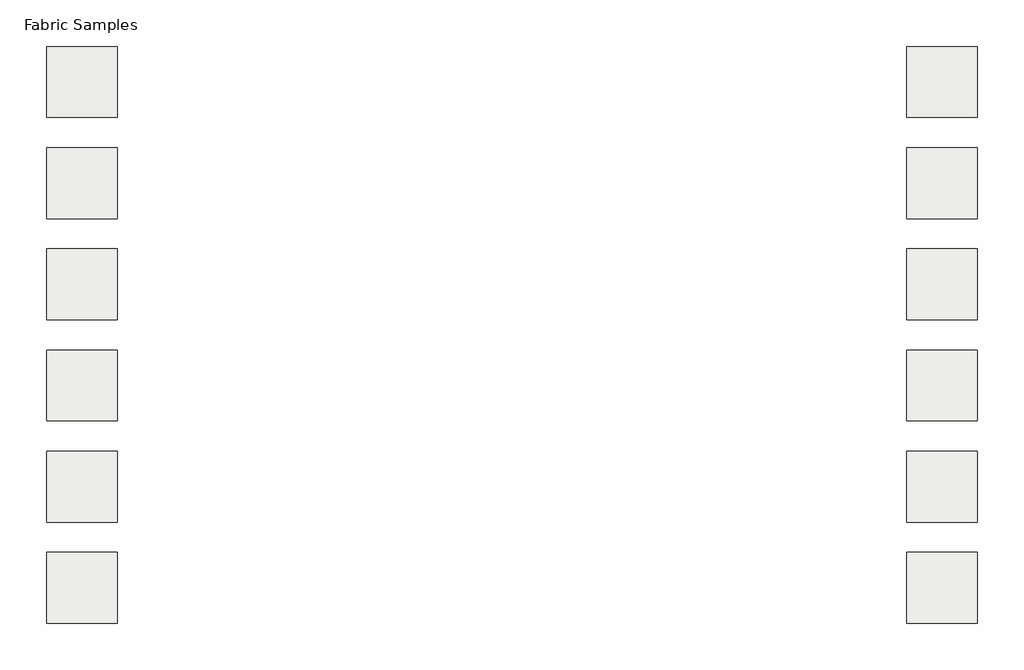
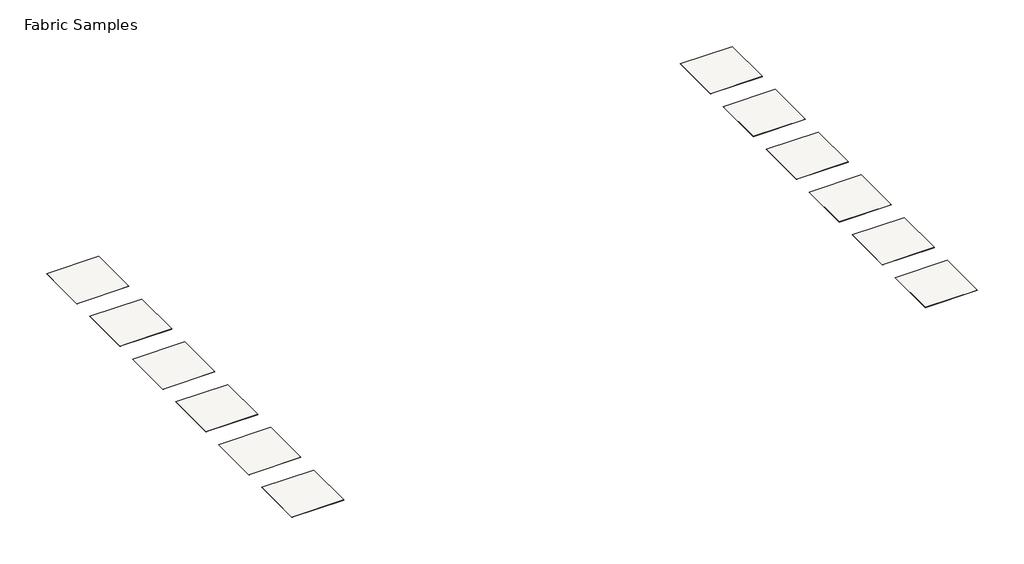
# One storey: 12 coverings.
"""IFC4 building model written with IfcOpenShell, lengths in millimetres."""

from ifc_helpers import new_model, si_unit, frame, origin, place, context, project, spatial, polyline, outline, extrude, element, save

model = new_model("IFC4")

# Units and contexts
model_context = context("Model", 3, world=origin())
ifc_project = project(units=[si_unit("LENGTHUNIT", "METRE", prefix="MILLI")], contexts=[model_context])

# Site, building, storey
site = spatial("IfcSite", under=ifc_project)
building = spatial("IfcBuilding", under=site)
storey = spatial("IfcBuildingStorey", under=building, Name="Fabric Samples", Elevation=0.0)

# Coverings
placement = place(None, origin())
element("IfcCovering", 1, ObjectType="CamiraFabrics_TxtlRllCvrngs_24/7+_Century_WK025", at=placement, inside=storey, context=model_context, shape_type="SweptSolid", body=[
    extrude(outline(polyline([(515.5073044, 1029.1514654), (515.5073044, -370.8485346), (-884.4926956, -370.8485346), (-884.4926956, 1029.1514654), (515.5073044, 1029.1514654)])), frame((0.0, 0.0, -2.0), z_axis=(0.0, 0.0, 1.0), x_axis=(1.0, 0.0, 0.0)), (0.0, 0.0, 1.0), 2.0),
])
element("IfcCovering", 2, ObjectType="CamiraFabrics_TxtlRllCvrngs_24/7+_Day_WK003", at=placement, inside=storey, context=model_context, shape_type="SweptSolid", body=[
    extrude(outline(polyline([(515.5073044, -970.8485346), (515.5073044, -2370.8485346), (-884.4926956, -2370.8485346), (-884.4926956, -970.8485346), (515.5073044, -970.8485346)])), frame((0.0, 0.0, -2.0), z_axis=(0.0, 0.0, 1.0), x_axis=(1.0, 0.0, 0.0)), (0.0, 0.0, 1.0), 2.0),
])
element("IfcCovering", 3, ObjectType="CamiraFabrics_TxtlRllCvrngs_24/7+_Decade_WK020", at=placement, inside=storey, context=model_context, shape_type="SweptSolid", body=[
    extrude(outline(polyline([(515.5073044, -2970.8485346), (515.5073044, -4370.8485346), (-884.4926956, -4370.8485346), (-884.4926956, -2970.8485346), (515.5073044, -2970.8485346)])), frame((0.0, 0.0, -2.0), z_axis=(0.0, 0.0, 1.0), x_axis=(1.0, 0.0, 0.0)), (0.0, 0.0, 1.0), 2.0),
])
element("IfcCovering", 4, ObjectType="CamiraFabrics_TxtlRllCvrngs_24/7+_Forever_WK017", at=placement, inside=storey, context=model_context, shape_type="SweptSolid", body=[
    extrude(outline(polyline([(515.5073044, -4970.8485346), (515.5073044, -6370.8485346), (-884.4926956, -6370.8485346), (-884.4926956, -4970.8485346), (515.5073044, -4970.8485346)])), frame((0.0, 0.0, -2.0), z_axis=(0.0, 0.0, 1.0), x_axis=(1.0, 0.0, 0.0)), (0.0, 0.0, 1.0), 2.0),
])
element("IfcCovering", 5, ObjectType="CamiraFabrics_TxtlRllCvrngs_24/7+_Hour_WK001", at=placement, inside=storey, context=model_context, shape_type="SweptSolid", body=[
    extrude(outline(polyline([(515.5073044, -6970.8485346), (515.5073044, -8370.8485346), (-884.4926956, -8370.8485346), (-884.4926956, -6970.8485346), (515.5073044, -6970.8485346)])), frame((0.0, 0.0, -2.0), z_axis=(0.0, 0.0, 1.0), x_axis=(1.0, 0.0, 0.0)), (0.0, 0.0, 1.0), 2.0),
])
element("IfcCovering", 6, ObjectType="CamiraFabrics_TxtlRllCvrngs_24/7+_Minute_WK008", at=placement, inside=storey, context=model_context, shape_type="SweptSolid", body=[
    extrude(outline(polyline([(515.5073044, -8970.8485346), (515.5073044, -10370.8485346), (-884.4926956, -10370.8485346), (-884.4926956, -8970.8485346), (515.5073044, -8970.8485346)])), frame((0.0, 0.0, -2.0), z_axis=(0.0, 0.0, 1.0), x_axis=(1.0, 0.0, 0.0)), (0.0, 0.0, 1.0), 2.0),
])
element("IfcCovering", 7, ObjectType="CamiraFabrics_TxtlRllCvrngs_24/7+_Nadir_WK021", at=placement, inside=storey, context=model_context, shape_type="SweptSolid", body=[
    extrude(outline(polyline([(17515.5073044, 1029.1514654), (17515.5073044, -370.8485346), (16115.5073044, -370.8485346), (16115.5073044, 1029.1514654), (17515.5073044, 1029.1514654)])), frame((0.0, 0.0, -2.0), z_axis=(0.0, 0.0, 1.0), x_axis=(1.0, 0.0, 0.0)), (0.0, 0.0, 1.0), 2.0),
])
element("IfcCovering", 8, ObjectType="CamiraFabrics_TxtlRllCvrngs_24/7+_Night_WK012", at=placement, inside=storey, context=model_context, shape_type="SweptSolid", body=[
    extrude(outline(polyline([(17515.5073044, -970.8485346), (17515.5073044, -2370.8485346), (16115.5073044, -2370.8485346), (16115.5073044, -970.8485346), (17515.5073044, -970.8485346)])), frame((0.0, 0.0, -2.0), z_axis=(0.0, 0.0, 1.0), x_axis=(1.0, 0.0, 0.0)), (0.0, 0.0, 1.0), 2.0),
])
element("IfcCovering", 9, ObjectType="CamiraFabrics_TxtlRllCvrngs_24/7+_Pendulum_WK023", at=placement, inside=storey, context=model_context, shape_type="SweptSolid", body=[
    extrude(outline(polyline([(17515.5073044, -2970.8485346), (17515.5073044, -4370.8485346), (16115.5073044, -4370.8485346), (16115.5073044, -2970.8485346), (17515.5073044, -2970.8485346)])), frame((0.0, 0.0, -2.0), z_axis=(0.0, 0.0, 1.0), x_axis=(1.0, 0.0, 0.0)), (0.0, 0.0, 1.0), 2.0),
])
element("IfcCovering", 10, ObjectType="CamiraFabrics_TxtlRllCvrngs_24/7+_Perpetual_WK013", at=placement, inside=storey, context=model_context, shape_type="SweptSolid", body=[
    extrude(outline(polyline([(17515.5073044, -4970.8485346), (17515.5073044, -6370.8485346), (16115.5073044, -6370.8485346), (16115.5073044, -4970.8485346), (17515.5073044, -4970.8485346)])), frame((0.0, 0.0, -2.0), z_axis=(0.0, 0.0, 1.0), x_axis=(1.0, 0.0, 0.0)), (0.0, 0.0, 1.0), 2.0),
])
element("IfcCovering", 11, ObjectType="CamiraFabrics_TxtlRllCvrngs_24/7+_Solstice_WK018", at=placement, inside=storey, context=model_context, shape_type="SweptSolid", body=[
    extrude(outline(polyline([(17515.5073044, -6970.8485346), (17515.5073044, -8370.8485346), (16115.5073044, -8370.8485346), (16115.5073044, -6970.8485346), (17515.5073044, -6970.8485346)])), frame((0.0, 0.0, -2.0), z_axis=(0.0, 0.0, 1.0), x_axis=(1.0, 0.0, 0.0)), (0.0, 0.0, 1.0), 2.0),
])
element("IfcCovering", 12, ObjectType="CamiraFabrics_TxtlRllCvrngs_24/7+_Zenith_WK002", at=placement, inside=storey, context=model_context, shape_type="SweptSolid", body=[
    extrude(outline(polyline([(17515.5073044, -8970.8485346), (17515.5073044, -10370.8485346), (16115.5073044, -10370.8485346), (16115.5073044, -8970.8485346), (17515.5073044, -8970.8485346)])), frame((0.0, 0.0, -2.0), z_axis=(0.0, 0.0, 1.0), x_axis=(1.0, 0.0, 0.0)), (0.0, 0.0, 1.0), 2.0),
])

save(model, "model.ifc")
